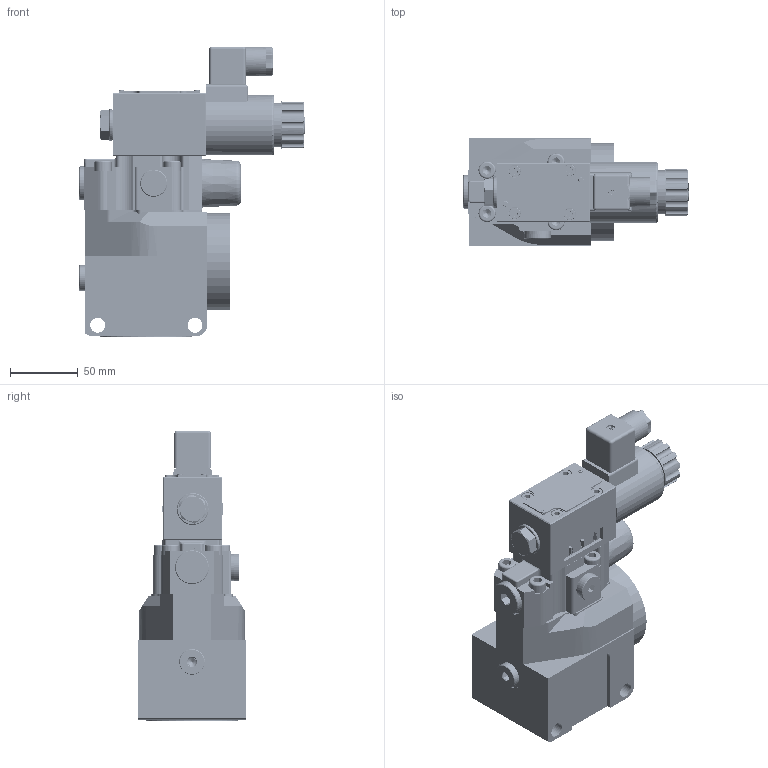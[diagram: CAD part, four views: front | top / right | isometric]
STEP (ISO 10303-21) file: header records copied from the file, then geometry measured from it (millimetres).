
FILE_DESCRIPTION(/* description */ (''),/* implementation_level */ '2;1');
FILE_NAME(/* name */ 'DBW15AG.stp',/* time_stamp */ '2023-12-05T13:31:31+08:00',/* author */ (''),/* organization */ (''),/* preprocessor_version */ 'ST-DEVELOPER v16.7',/* originating_system */ 'SIEMENS PLM Software NX 12.0',/* authorisation */ '');
FILE_SCHEMA (('AUTOMOTIVE_DESIGN { 1 0 10303 214 3 1 1 1 }'));
Products named in the file (1): DBW15AG
Bounding box: 166.9 x 80 x 215 mm (x, y, z)
Volume: 686572.1 mm3; surface area: 269057.9 mm2
Topology: 69 solids, 73 shells, 2318 faces, 5797 edges, 3696 vertices
Faces by surface type: cylinder 946, plane 902, cone 191, bspline 146, torus 105, sphere 28
Full cylindrical faces by diameter (mm): 1 x5, 1.2 x1, 1.5 x4, 1.8 x4, 2 x7, 2.55 x20, 3 x50, 3.3 x2, 3.4 x12, 3.5 x1, 4 x4, 4.2 x10, 4.3 x48, 4.4 x2, 4.5 x1, 4.6 x2, 5 x116, 5.3 x4, 5.4 x1, 5.5 x3, 6 x3, 6.5 x1, 6.7 x48, 7 x1, 8 x14, 8.1 x1, 8.3 x3, 8.4 x4, 8.5 x4, 8.7 x1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
Entity records: 216070 total; most frequent: CARTESIAN_POINT 173214, DIRECTION 8347, ORIENTED_EDGE 8064, EDGE_CURVE 4032, AXIS2_PLACEMENT_3D 3257, VERTEX_POINT 2819, EDGE_LOOP 2706, ADVANCED_FACE 1976
